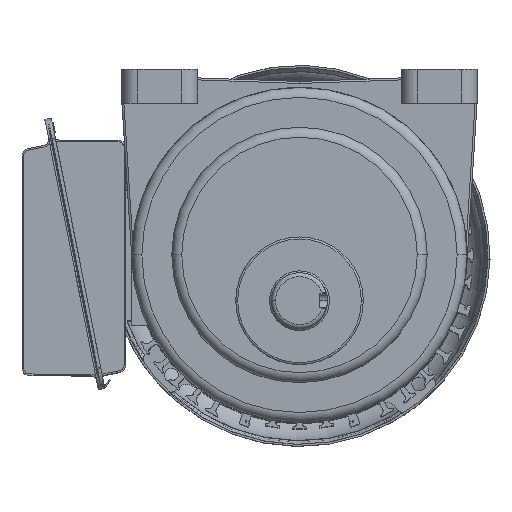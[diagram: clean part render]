
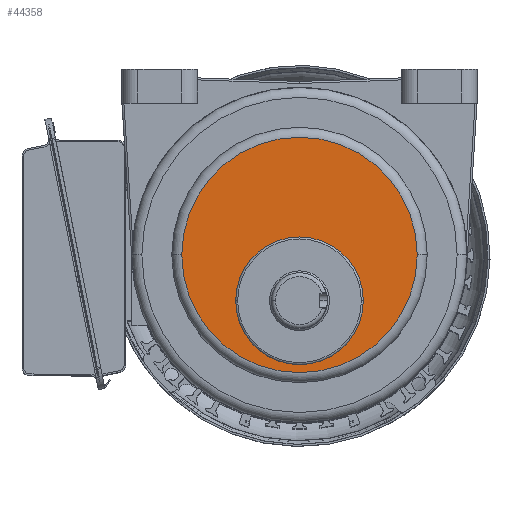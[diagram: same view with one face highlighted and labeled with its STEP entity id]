
A CAD part, top view. The second image highlights one B-rep face of the part: STEP entity #44358.
In plain terms, the highlighted planar face has unit normal (0, 0, 1).
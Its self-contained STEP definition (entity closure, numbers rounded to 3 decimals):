
#832 = AXIS2_PLACEMENT_3D ( 'NONE', #3227, #3228, #3229 ) ;
#857 = AXIS2_PLACEMENT_3D ( 'NONE', #3293, #3294, #3295 ) ;
#2246 = CARTESIAN_POINT ( 'NONE',  ( 32., -23., 286.5 ) ) ;
#2270 = CARTESIAN_POINT ( 'NONE',  ( -32., -23., 286.5 ) ) ;
#2274 = CARTESIAN_POINT ( 'NONE',  ( -59., 0., 286.5 ) ) ;
#2303 = CARTESIAN_POINT ( 'NONE',  ( 59., 0., 286.5 ) ) ;
#3227 = CARTESIAN_POINT ( 'NONE',  ( 0., -23., 286.5 ) ) ;
#3228 = DIRECTION ( 'NONE',  ( 0., 0., 1. ) ) ;
#3229 = DIRECTION ( 'NONE',  ( -1., 0., 0. ) ) ;
#3293 = CARTESIAN_POINT ( 'NONE',  ( 0., 0., 286.5 ) ) ;
#3294 = DIRECTION ( 'NONE',  ( 0., 0., 1. ) ) ;
#3295 = DIRECTION ( 'NONE',  ( -1., 0., 0. ) ) ;
#9436 = CIRCLE ( 'NONE', #22608, 32. ) ;
#9437 = CIRCLE ( 'NONE', #22609, 59. ) ;
#22608 = AXIS2_PLACEMENT_3D ( 'NONE', #25224, #25225, #25226 ) ;
#22609 = AXIS2_PLACEMENT_3D ( 'NONE', #25227, #25228, #25229 ) ;
#25224 = CARTESIAN_POINT ( 'NONE',  ( 0., -23., 286.5 ) ) ;
#25225 = DIRECTION ( 'NONE',  ( 0., 0., 1. ) ) ;
#25226 = DIRECTION ( 'NONE',  ( -1., 0., 0. ) ) ;
#25227 = CARTESIAN_POINT ( 'NONE',  ( 0., 0., 286.5 ) ) ;
#25228 = DIRECTION ( 'NONE',  ( 0., 0., 1. ) ) ;
#25229 = DIRECTION ( 'NONE',  ( -1., 0., 0. ) ) ;
#27068 = FACE_OUTER_BOUND ( 'NONE', #29651, .T. ) ;
#27073 = FACE_BOUND ( 'NONE', #29594, .T. ) ;
#27075 = AXIS2_PLACEMENT_3D ( 'NONE', #27359, #27360, #27361 ) ;
#27358 = PLANE ( 'NONE',  #27075 ) ;
#27359 = CARTESIAN_POINT ( 'NONE',  ( 0., 0., 286.5 ) ) ;
#27360 = DIRECTION ( 'NONE',  ( 0., 0., 1. ) ) ;
#27361 = DIRECTION ( 'NONE',  ( -1., 0., 0. ) ) ;
#29509 = VERTEX_POINT ( 'NONE', #2246 ) ;
#29590 = VERTEX_POINT ( 'NONE', #2270 ) ;
#29594 = EDGE_LOOP ( 'NONE', ( #43256, #43255 ) ) ;
#29596 = VERTEX_POINT ( 'NONE', #2274 ) ;
#29651 = EDGE_LOOP ( 'NONE', ( #43253, #43254 ) ) ;
#29654 = VERTEX_POINT ( 'NONE', #2303 ) ;
#30044 = EDGE_CURVE ( 'NONE', #29590, #29509, #44418, .T. ) ;
#30065 = EDGE_CURVE ( 'NONE', #29596, #29654, #44429, .T. ) ;
#43253 = ORIENTED_EDGE ( 'NONE', *, *, #30065, .T. ) ;
#43254 = ORIENTED_EDGE ( 'NONE', *, *, #43937, .T. ) ;
#43255 = ORIENTED_EDGE ( 'NONE', *, *, #43936, .F. ) ;
#43256 = ORIENTED_EDGE ( 'NONE', *, *, #30044, .F. ) ;
#43936 = EDGE_CURVE ( 'NONE', #29509, #29590, #9436, .T. ) ;
#43937 = EDGE_CURVE ( 'NONE', #29654, #29596, #9437, .T. ) ;
#44358 = ADVANCED_FACE ( 'NONE', ( #27068, #27073 ), #27358, .T. ) ;
#44418 = CIRCLE ( 'NONE', #832, 32. ) ;
#44429 = CIRCLE ( 'NONE', #857, 59. ) ;
